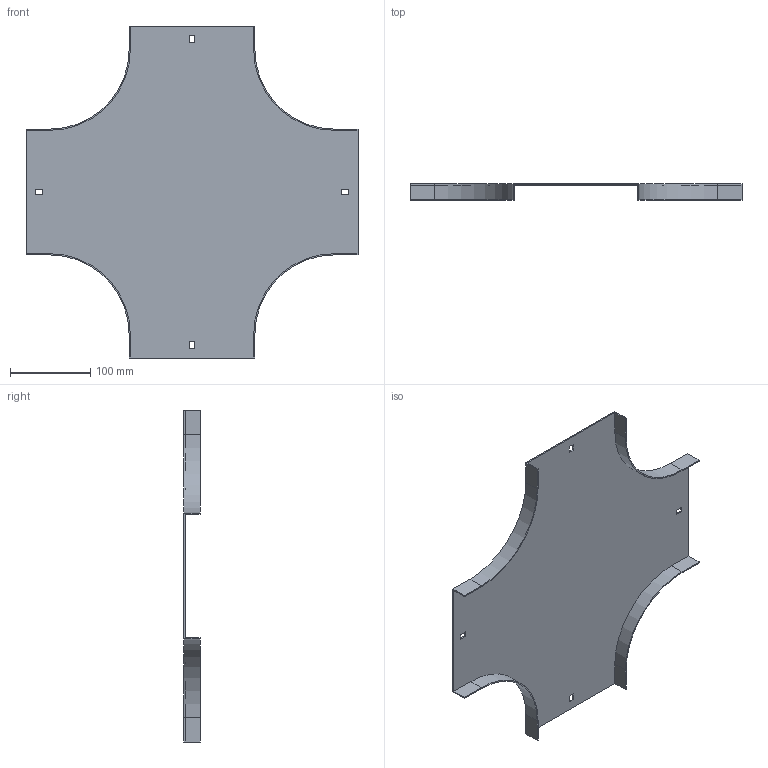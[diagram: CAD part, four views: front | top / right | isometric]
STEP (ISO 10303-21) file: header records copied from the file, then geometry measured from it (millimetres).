
FILE_DESCRIPTION (( 'STEP AP214' ), '1' );
FILE_NAME ('17G1R150.step', '2025-02-21T13:03:12', ( '' ), ( '' ), 'SwSTEP 2.0', 'SolidWorks 2023', '' );
FILE_SCHEMA (( 'AUTOMOTIVE_DESIGN' ));
Length unit declared in the file: millimetre
Products named in the file (1): 17G1R150
Bounding box: 414 x 20 x 414 mm (x, y, z)
Volume: 194127.3 mm3; surface area: 261474.7 mm2
Topology: 1 solids, 1 shells, 50 faces, 144 edges, 96 vertices
Faces by surface type: plane 42, cylinder 8
Entity records: 1663 total; most frequent: CARTESIAN_POINT 291, ORIENTED_EDGE 288, DIRECTION 262, EDGE_CURVE 144, LINE 128, VECTOR 128, VERTEX_POINT 96, AXIS2_PLACEMENT_3D 67
